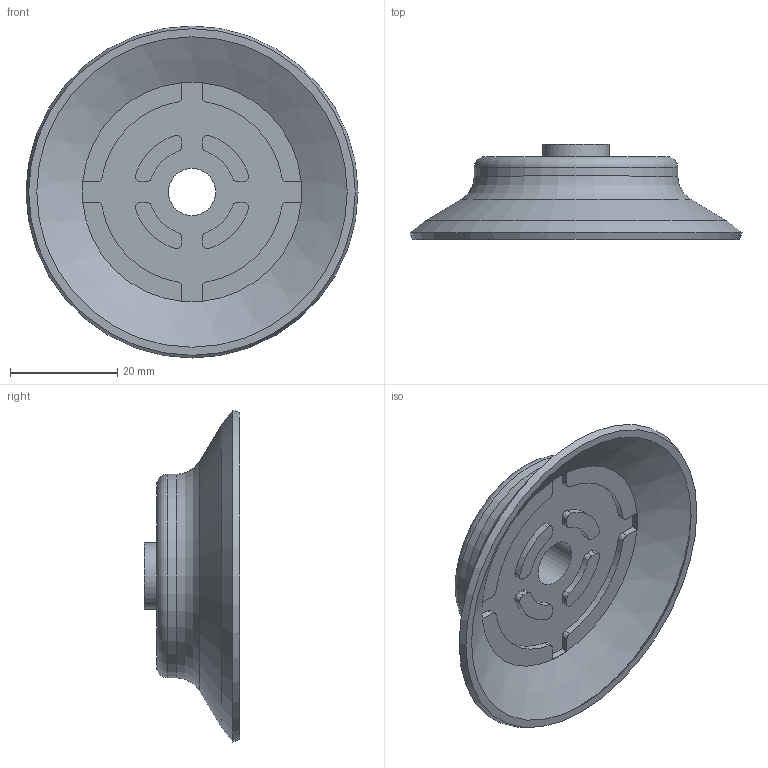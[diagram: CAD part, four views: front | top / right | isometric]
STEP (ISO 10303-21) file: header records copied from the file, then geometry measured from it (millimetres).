
FILE_DESCRIPTION (( 'STEP AP214' ), '1' );
FILE_NAME ('PA60.STEP', '2024-03-01T16:50:57', ( '' ), ( '' ), 'SwSTEP 2.0', 'SolidWorks 2018', '' );
FILE_SCHEMA (( 'AUTOMOTIVE_DESIGN' ));
Length unit declared in the file: millimetre
Products named in the file (1): PA60
Bounding box: 62 x 17.85 x 62 mm (x, y, z)
Volume: 13255.5 mm3; surface area: 8397 mm2
Topology: 1 solids, 1 shells, 88 faces, 219 edges, 140 vertices
Faces by surface type: plane 41, cylinder 40, cone 5, torus 2
Full cylindrical faces by diameter (mm): 8.8 x1, 10.3 x1, 12.5 x1, 38 x1
Entity records: 2623 total; most frequent: DIRECTION 484, CARTESIAN_POINT 435, ORIENTED_EDGE 414, EDGE_CURVE 207, AXIS2_PLACEMENT_3D 188, VERTEX_POINT 139, VECTOR 108, EDGE_LOOP 108
